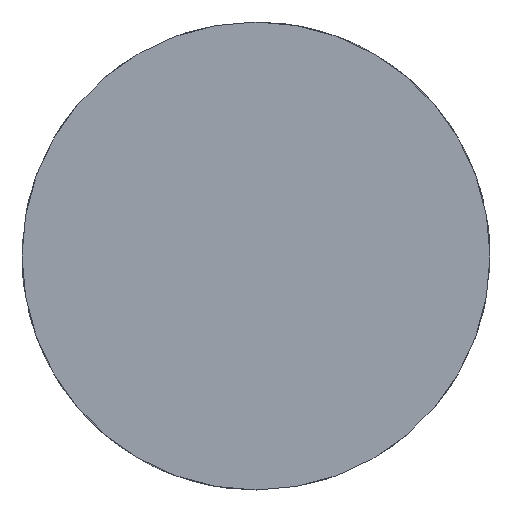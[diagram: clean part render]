
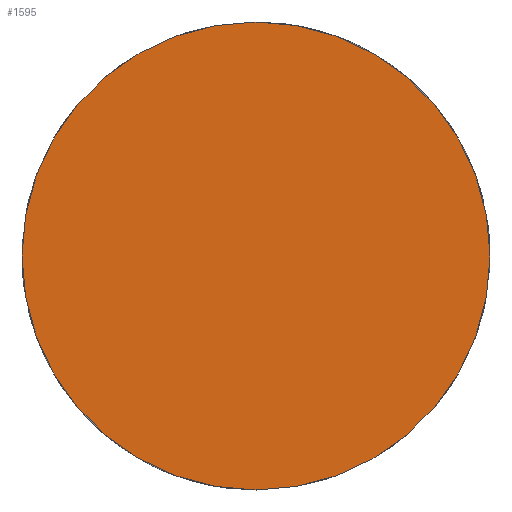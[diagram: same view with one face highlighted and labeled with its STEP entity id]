
A CAD part, front view. The second image highlights one B-rep face of the part: STEP entity #1595.
In plain terms, the highlighted planar face has unit normal (0, -1, 0).
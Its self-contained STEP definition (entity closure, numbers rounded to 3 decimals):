
#139 = CARTESIAN_POINT ( 'NONE',  ( 0., 0., 0. ) ) ;
#281 = VERTEX_POINT ( 'NONE', #1513 ) ;
#302 = CIRCLE ( 'NONE', #2184, 6.75 ) ;
#371 = DIRECTION ( 'NONE',  ( 0., 1., 0. ) ) ;
#399 = EDGE_CURVE ( 'NONE', #508, #281, #302, .T. ) ;
#475 = EDGE_CURVE ( 'NONE', #281, #508, #1374, .T. ) ;
#508 = VERTEX_POINT ( 'NONE', #936 ) ;
#751 = DIRECTION ( 'NONE',  ( 0., 0., 1. ) ) ;
#785 = EDGE_LOOP ( 'NONE', ( #2056, #2379 ) ) ;
#879 = AXIS2_PLACEMENT_3D ( 'NONE', #139, #1610, #2433 ) ;
#901 = FACE_OUTER_BOUND ( 'NONE', #785, .T. ) ;
#936 = CARTESIAN_POINT ( 'NONE',  ( 0., 0., 6.75 ) ) ;
#1353 = DIRECTION ( 'NONE',  ( 0., 0., 1. ) ) ;
#1374 = CIRCLE ( 'NONE', #2320, 6.75 ) ;
#1513 = CARTESIAN_POINT ( 'NONE',  ( 0., 0., -6.75 ) ) ;
#1579 = CARTESIAN_POINT ( 'NONE',  ( 0., 0., 0. ) ) ;
#1595 = ADVANCED_FACE ( 'NONE', ( #901 ), #1804, .F. ) ;
#1610 = DIRECTION ( 'NONE',  ( 0., 1., 0. ) ) ;
#1772 = DIRECTION ( 'NONE',  ( 0., 1., 0. ) ) ;
#1804 = PLANE ( 'NONE',  #879 ) ;
#2056 = ORIENTED_EDGE ( 'NONE', *, *, #475, .F. ) ;
#2175 = CARTESIAN_POINT ( 'NONE',  ( 0., 0., 0. ) ) ;
#2184 = AXIS2_PLACEMENT_3D ( 'NONE', #2175, #1772, #1353 ) ;
#2320 = AXIS2_PLACEMENT_3D ( 'NONE', #1579, #371, #751 ) ;
#2379 = ORIENTED_EDGE ( 'NONE', *, *, #399, .F. ) ;
#2433 = DIRECTION ( 'NONE',  ( 0., 0., 1. ) ) ;
